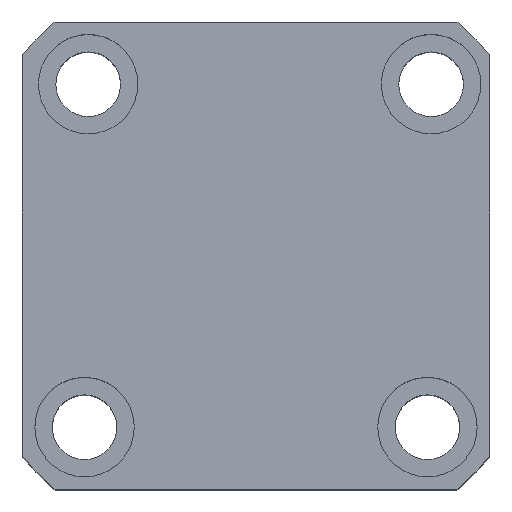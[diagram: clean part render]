
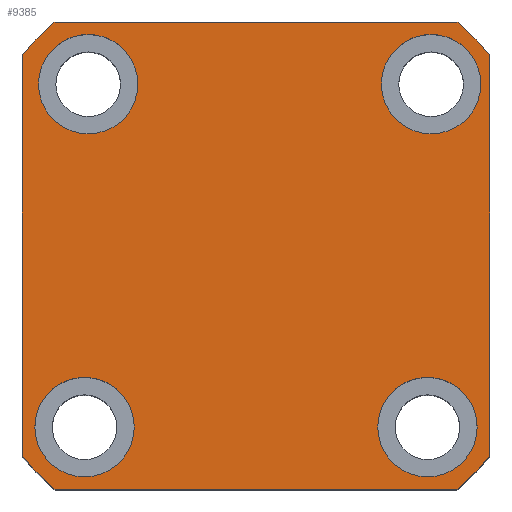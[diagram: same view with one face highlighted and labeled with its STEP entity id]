
A CAD part, top view. The second image highlights one B-rep face of the part: STEP entity #9385.
In plain terms, the highlighted planar face has unit normal (0, 0, 1) as drawn and (0, 0, -1) by its records, which use the part's own axes.
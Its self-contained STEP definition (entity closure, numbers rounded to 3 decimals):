
#55 = DIRECTION ( 'NONE',  ( -1., 0., 0. ) ) ;
#96 = DIRECTION ( 'NONE',  ( -1., 0., 0. ) ) ;
#155 = CARTESIAN_POINT ( 'NONE',  ( -47., 47., 0. ) ) ;
#180 = EDGE_CURVE ( 'NONE', #1492, #4184, #11228, .T. ) ;
#250 = CARTESIAN_POINT ( 'NONE',  ( 35.23, -34.5, 0. ) ) ;
#332 = DIRECTION ( 'NONE',  ( -1., 0., 0. ) ) ;
#396 = VECTOR ( 'NONE', #21432, 1000. ) ;
#730 = DIRECTION ( 'NONE',  ( 1., 0., 0. ) ) ;
#735 = CARTESIAN_POINT ( 'NONE',  ( 47., 40.435, 0. ) ) ;
#897 = EDGE_CURVE ( 'NONE', #7513, #20371, #16044, .T. ) ;
#907 = ORIENTED_EDGE ( 'NONE', *, *, #16082, .F. ) ;
#1210 = DIRECTION ( 'NONE',  ( 1., 0., 0. ) ) ;
#1245 = DIRECTION ( 'NONE',  ( 1., 0., 0. ) ) ;
#1294 = EDGE_CURVE ( 'NONE', #20756, #16485, #8677, .T. ) ;
#1411 = ORIENTED_EDGE ( 'NONE', *, *, #19779, .F. ) ;
#1492 = VERTEX_POINT ( 'NONE', #20317 ) ;
#2020 = ORIENTED_EDGE ( 'NONE', *, *, #15145, .F. ) ;
#2091 = CARTESIAN_POINT ( 'NONE',  ( -33.77, -34.5, 0. ) ) ;
#2147 = EDGE_CURVE ( 'NONE', #9323, #16691, #6459, .T. ) ;
#2162 = DIRECTION ( 'NONE',  ( -1., 0., 0. ) ) ;
#2320 = DIRECTION ( 'NONE',  ( 0., 0., -1. ) ) ;
#2404 = CARTESIAN_POINT ( 'NONE',  ( 40.435, -47., 0. ) ) ;
#2411 = EDGE_CURVE ( 'NONE', #3017, #19068, #13060, .T. ) ;
#2523 = EDGE_CURVE ( 'NONE', #21564, #15350, #12507, .T. ) ;
#2713 = DIRECTION ( 'NONE',  ( 0., -1., 0. ) ) ;
#3017 = VERTEX_POINT ( 'NONE', #9933 ) ;
#3547 = CARTESIAN_POINT ( 'NONE',  ( -24.5, 34.5, 0. ) ) ;
#3906 = CIRCLE ( 'NONE', #10615, 62. ) ;
#3912 = CARTESIAN_POINT ( 'NONE',  ( 0., 0., 0. ) ) ;
#3996 = DIRECTION ( 'NONE',  ( 0., 0., 1. ) ) ;
#4066 = DIRECTION ( 'NONE',  ( 1., 0., 0. ) ) ;
#4184 = VERTEX_POINT ( 'NONE', #6589 ) ;
#4393 = CIRCLE ( 'NONE', #5120, 10. ) ;
#4639 = VERTEX_POINT ( 'NONE', #735 ) ;
#4914 = CARTESIAN_POINT ( 'NONE',  ( 45.23, -34.5, 0. ) ) ;
#4945 = CARTESIAN_POINT ( 'NONE',  ( 35.23, -34.5, 0. ) ) ;
#5120 = AXIS2_PLACEMENT_3D ( 'NONE', #19247, #8911, #20931 ) ;
#5318 = CARTESIAN_POINT ( 'NONE',  ( 0., 0., 0. ) ) ;
#5324 = CIRCLE ( 'NONE', #19452, 10. ) ;
#5602 = ORIENTED_EDGE ( 'NONE', *, *, #180, .F. ) ;
#5660 = AXIS2_PLACEMENT_3D ( 'NONE', #17125, #17189, #17265 ) ;
#6140 = EDGE_LOOP ( 'NONE', ( #12411, #9380 ) ) ;
#6459 = CIRCLE ( 'NONE', #18518, 62. ) ;
#6589 = CARTESIAN_POINT ( 'NONE',  ( -47., -40.435, 0. ) ) ;
#6612 = CARTESIAN_POINT ( 'NONE',  ( -44.5, 34.5, 0. ) ) ;
#6754 = DIRECTION ( 'NONE',  ( -1., 0., 0. ) ) ;
#6814 = EDGE_LOOP ( 'NONE', ( #18819, #7187 ) ) ;
#6910 = FACE_BOUND ( 'NONE', #6814, .T. ) ;
#6920 = ORIENTED_EDGE ( 'NONE', *, *, #16136, .F. ) ;
#6942 = ORIENTED_EDGE ( 'NONE', *, *, #2523, .F. ) ;
#7127 = DIRECTION ( 'NONE',  ( 1., 0., 0. ) ) ;
#7187 = ORIENTED_EDGE ( 'NONE', *, *, #9040, .F. ) ;
#7454 = FACE_OUTER_BOUND ( 'NONE', #20211, .T. ) ;
#7513 = VERTEX_POINT ( 'NONE', #17475 ) ;
#7653 = CARTESIAN_POINT ( 'NONE',  ( 47., -40.435, 0. ) ) ;
#7660 = VECTOR ( 'NONE', #2713, 1000. ) ;
#7841 = ORIENTED_EDGE ( 'NONE', *, *, #2411, .F. ) ;
#8186 = CARTESIAN_POINT ( 'NONE',  ( -40.435, 47., 0. ) ) ;
#8268 = CARTESIAN_POINT ( 'NONE',  ( -47., -47., 0. ) ) ;
#8500 = CARTESIAN_POINT ( 'NONE',  ( 34.5, 34.5, 0. ) ) ;
#8529 = AXIS2_PLACEMENT_3D ( 'NONE', #250, #13129, #332 ) ;
#8554 = VERTEX_POINT ( 'NONE', #16688 ) ;
#8677 = CIRCLE ( 'NONE', #8529, 10. ) ;
#8911 = DIRECTION ( 'NONE',  ( 0., 0., -1. ) ) ;
#9040 = EDGE_CURVE ( 'NONE', #20371, #7513, #4393, .T. ) ;
#9191 = VERTEX_POINT ( 'NONE', #14533 ) ;
#9323 = VERTEX_POINT ( 'NONE', #2404 ) ;
#9380 = ORIENTED_EDGE ( 'NONE', *, *, #1294, .F. ) ;
#9385 = ADVANCED_FACE ( 'NONE', ( #6910, #16186, #15668, #11020, #7454 ), #11214, .F. ) ;
#9436 = CARTESIAN_POINT ( 'NONE',  ( 47., 47., 0. ) ) ;
#9567 = DIRECTION ( 'NONE',  ( 0., 0., 1. ) ) ;
#9702 = CIRCLE ( 'NONE', #20106, 10. ) ;
#9933 = CARTESIAN_POINT ( 'NONE',  ( 40.435, 47., 0. ) ) ;
#10248 = CIRCLE ( 'NONE', #11863, 10. ) ;
#10260 = DIRECTION ( 'NONE',  ( -1., 0., 0. ) ) ;
#10386 = DIRECTION ( 'NONE',  ( -1., 0., 0. ) ) ;
#10486 = ORIENTED_EDGE ( 'NONE', *, *, #15846, .F. ) ;
#10615 = AXIS2_PLACEMENT_3D ( 'NONE', #19877, #9567, #21570 ) ;
#10619 = DIRECTION ( 'NONE',  ( 0., 0., -1. ) ) ;
#10648 = DIRECTION ( 'NONE',  ( 0., 0., -1. ) ) ;
#10941 = CARTESIAN_POINT ( 'NONE',  ( -23.77, -34.5, 0. ) ) ;
#11020 = FACE_BOUND ( 'NONE', #17320, .T. ) ;
#11214 = PLANE ( 'NONE',  #20208 ) ;
#11228 = LINE ( 'NONE', #155, #7660 ) ;
#11284 = DIRECTION ( 'NONE',  ( 0., 0., 1. ) ) ;
#11357 = AXIS2_PLACEMENT_3D ( 'NONE', #21965, #11774, #1210 ) ;
#11386 = ORIENTED_EDGE ( 'NONE', *, *, #14636, .F. ) ;
#11774 = DIRECTION ( 'NONE',  ( 0., 0., 1. ) ) ;
#11863 = AXIS2_PLACEMENT_3D ( 'NONE', #4945, #17166, #6754 ) ;
#12411 = ORIENTED_EDGE ( 'NONE', *, *, #17369, .F. ) ;
#12507 = CIRCLE ( 'NONE', #5660, 10. ) ;
#12991 = CARTESIAN_POINT ( 'NONE',  ( 0., 0., 0. ) ) ;
#13030 = CIRCLE ( 'NONE', #11357, 62. ) ;
#13060 = LINE ( 'NONE', #21122, #17078 ) ;
#13111 = CARTESIAN_POINT ( 'NONE',  ( 44.5, 34.5, 0. ) ) ;
#13129 = DIRECTION ( 'NONE',  ( 0., 0., -1. ) ) ;
#13836 = ORIENTED_EDGE ( 'NONE', *, *, #15845, .F. ) ;
#13921 = LINE ( 'NONE', #9436, #396 ) ;
#14398 = CIRCLE ( 'NONE', #15606, 62. ) ;
#14533 = CARTESIAN_POINT ( 'NONE',  ( 24.5, 34.5, 0. ) ) ;
#14636 = EDGE_CURVE ( 'NONE', #4184, #8554, #3906, .T. ) ;
#14842 = AXIS2_PLACEMENT_3D ( 'NONE', #2091, #2320, #2162 ) ;
#15145 = EDGE_CURVE ( 'NONE', #19068, #1492, #13030, .T. ) ;
#15350 = VERTEX_POINT ( 'NONE', #6612 ) ;
#15606 = AXIS2_PLACEMENT_3D ( 'NONE', #5318, #17523, #7127 ) ;
#15668 = FACE_BOUND ( 'NONE', #18039, .T. ) ;
#15845 = EDGE_CURVE ( 'NONE', #4639, #3017, #14398, .T. ) ;
#15846 = EDGE_CURVE ( 'NONE', #9191, #20550, #9702, .T. ) ;
#16044 = CIRCLE ( 'NONE', #14842, 10. ) ;
#16082 = EDGE_CURVE ( 'NONE', #8554, #9323, #18346, .T. ) ;
#16136 = EDGE_CURVE ( 'NONE', #20550, #9191, #21243, .T. ) ;
#16186 = FACE_BOUND ( 'NONE', #6140, .T. ) ;
#16485 = VERTEX_POINT ( 'NONE', #21849 ) ;
#16688 = CARTESIAN_POINT ( 'NONE',  ( -40.435, -47., 0. ) ) ;
#16691 = VERTEX_POINT ( 'NONE', #7653 ) ;
#17078 = VECTOR ( 'NONE', #10386, 1000. ) ;
#17125 = CARTESIAN_POINT ( 'NONE',  ( -34.5, 34.5, 0. ) ) ;
#17166 = DIRECTION ( 'NONE',  ( 0., 0., -1. ) ) ;
#17189 = DIRECTION ( 'NONE',  ( 0., 0., -1. ) ) ;
#17265 = DIRECTION ( 'NONE',  ( -1., 0., 0. ) ) ;
#17320 = EDGE_LOOP ( 'NONE', ( #21205, #6942 ) ) ;
#17369 = EDGE_CURVE ( 'NONE', #16485, #20756, #10248, .T. ) ;
#17475 = CARTESIAN_POINT ( 'NONE',  ( -43.77, -34.5, 0. ) ) ;
#17523 = DIRECTION ( 'NONE',  ( 0., 0., 1. ) ) ;
#17843 = ORIENTED_EDGE ( 'NONE', *, *, #2147, .F. ) ;
#18039 = EDGE_LOOP ( 'NONE', ( #10486, #6920 ) ) ;
#18345 = EDGE_CURVE ( 'NONE', #15350, #21564, #5324, .T. ) ;
#18346 = LINE ( 'NONE', #8268, #21763 ) ;
#18518 = AXIS2_PLACEMENT_3D ( 'NONE', #3912, #3996, #4066 ) ;
#18819 = ORIENTED_EDGE ( 'NONE', *, *, #897, .F. ) ;
#19068 = VERTEX_POINT ( 'NONE', #8186 ) ;
#19247 = CARTESIAN_POINT ( 'NONE',  ( -33.77, -34.5, 0. ) ) ;
#19452 = AXIS2_PLACEMENT_3D ( 'NONE', #20874, #10619, #55 ) ;
#19779 = EDGE_CURVE ( 'NONE', #16691, #4639, #13921, .T. ) ;
#19877 = CARTESIAN_POINT ( 'NONE',  ( 0., 0., 0. ) ) ;
#20106 = AXIS2_PLACEMENT_3D ( 'NONE', #20904, #10648, #96 ) ;
#20208 = AXIS2_PLACEMENT_3D ( 'NONE', #12991, #11284, #730 ) ;
#20211 = EDGE_LOOP ( 'NONE', ( #13836, #1411, #17843, #907, #11386, #5602, #2020, #7841 ) ) ;
#20317 = CARTESIAN_POINT ( 'NONE',  ( -47., 40.435, 0. ) ) ;
#20371 = VERTEX_POINT ( 'NONE', #10941 ) ;
#20536 = DIRECTION ( 'NONE',  ( 0., 0., -1. ) ) ;
#20550 = VERTEX_POINT ( 'NONE', #13111 ) ;
#20756 = VERTEX_POINT ( 'NONE', #4914 ) ;
#20874 = CARTESIAN_POINT ( 'NONE',  ( -34.5, 34.5, 0. ) ) ;
#20904 = CARTESIAN_POINT ( 'NONE',  ( 34.5, 34.5, 0. ) ) ;
#20931 = DIRECTION ( 'NONE',  ( -1., 0., 0. ) ) ;
#21122 = CARTESIAN_POINT ( 'NONE',  ( -47., 47., 0. ) ) ;
#21205 = ORIENTED_EDGE ( 'NONE', *, *, #18345, .F. ) ;
#21243 = CIRCLE ( 'NONE', #22378, 10. ) ;
#21432 = DIRECTION ( 'NONE',  ( 0., 1., 0. ) ) ;
#21564 = VERTEX_POINT ( 'NONE', #3547 ) ;
#21570 = DIRECTION ( 'NONE',  ( 1., 0., 0. ) ) ;
#21763 = VECTOR ( 'NONE', #1245, 1000. ) ;
#21849 = CARTESIAN_POINT ( 'NONE',  ( 25.23, -34.5, 0. ) ) ;
#21965 = CARTESIAN_POINT ( 'NONE',  ( 0., 0., 0. ) ) ;
#22378 = AXIS2_PLACEMENT_3D ( 'NONE', #8500, #20536, #10260 ) ;
